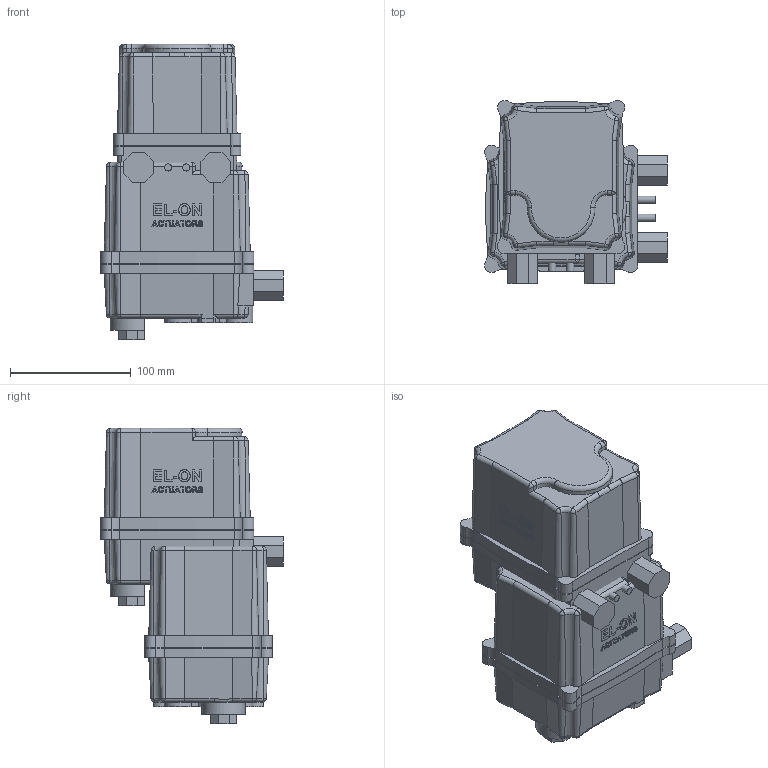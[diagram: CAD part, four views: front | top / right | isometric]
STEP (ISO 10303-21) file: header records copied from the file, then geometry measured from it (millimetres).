
FILE_DESCRIPTION( ( 'Unknown' ), '1' );
FILE_NAME( 'J:/Muud/ROOTSI BPS 3D vidinad/Kuulkraanid/Roostevaba kuulkraanid/Ball valve BPS 2411/Ball valve with electric actuator BPS/STEP formaat/BPS 2411025E ball valve DN25.stp', 'Unknown', ( 'Unknown' ), ( 'Unknown' ), 'PSStep 10.1', 'Unknown', ' ' );
FILE_SCHEMA( ( 'AUTOMOTIVE_DESIGN { 1 0 10303 214 1 1 1 1 }' ) );
Length unit declared in the file: millimetre
Products named in the file (4): Assem1; BPS 2411025 ball valve DN25; BPS 8005058 electric actuator DN40-100
Bounding box: 151.5 x 151.5 x 244.7 mm (x, y, z)
Volume: 3171420.6 mm3; surface area: 288619.9 mm2
Topology: 6 solids, 6 shells, 1116 faces, 2876 edges, 1864 vertices
Faces by surface type: plane 438, cylinder 256, extrusion 190, bspline 124, cone 82, torus 26
Full cylindrical faces by diameter (mm): 4.134 x16, 4.917 x8, 6 x4, 6.647 x8, 25 x2, 27 x2, 30.291 x4, 35 x2, 50 x2
Entity records: 29480 total; most frequent: CARTESIAN_POINT 12635, ORIENTED_EDGE 2682, DIRECTION 2068, EDGE_CURVE 1341, VERTEX_POINT 912, VECTOR 708, AXIS2_PLACEMENT_3D 680, EDGE_LOOP 675
